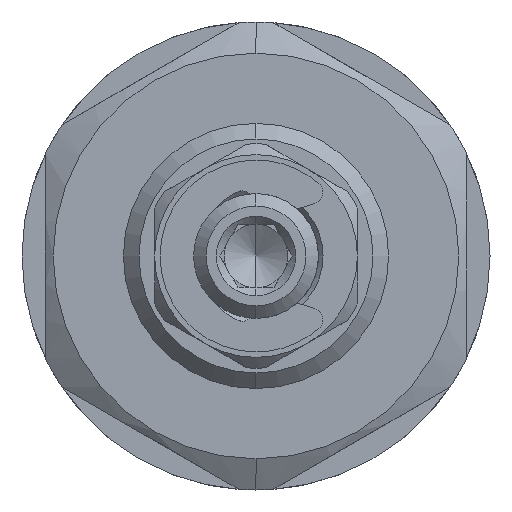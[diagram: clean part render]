
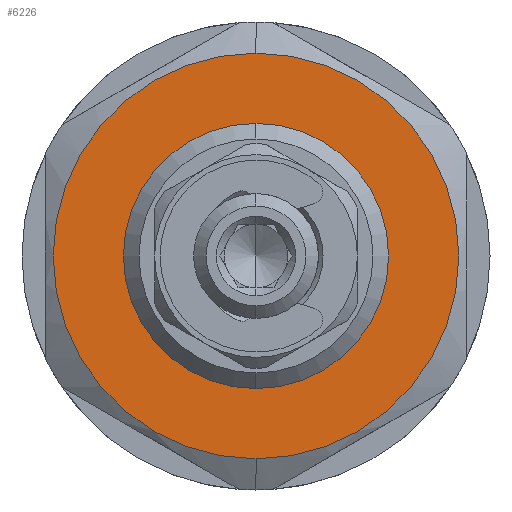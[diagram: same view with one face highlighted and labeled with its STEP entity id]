
A CAD part, left-side view. The second image highlights one B-rep face of the part: STEP entity #6226.
In plain terms, the highlighted planar face has unit normal (-1, 0, 0).
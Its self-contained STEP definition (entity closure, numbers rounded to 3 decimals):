
#327 = CIRCLE ( 'NONE', #3007, 8.5 ) ;
#601 = CARTESIAN_POINT ( 'NONE',  ( 13., 0., 13. ) ) ;
#668 = EDGE_CURVE ( 'NONE', #9710, #1951, #8001, .T. ) ;
#985 = CARTESIAN_POINT ( 'NONE',  ( 13., 0., 0. ) ) ;
#1564 = FACE_OUTER_BOUND ( 'NONE', #2878, .T. ) ;
#1779 = CIRCLE ( 'NONE', #5053, 13. ) ;
#1911 = DIRECTION ( 'NONE',  ( 0., 0., 1. ) ) ;
#1951 = VERTEX_POINT ( 'NONE', #601 ) ;
#2146 = CARTESIAN_POINT ( 'NONE',  ( 13., 0., -8.5 ) ) ;
#2287 = CARTESIAN_POINT ( 'NONE',  ( 13., 0., -13. ) ) ;
#2825 = ORIENTED_EDGE ( 'NONE', *, *, #9030, .F. ) ;
#2878 = EDGE_LOOP ( 'NONE', ( #7214, #8727 ) ) ;
#3007 = AXIS2_PLACEMENT_3D ( 'NONE', #3680, #3344, #5652 ) ;
#3284 = AXIS2_PLACEMENT_3D ( 'NONE', #985, #7507, #1911 ) ;
#3328 = EDGE_LOOP ( 'NONE', ( #2825, #4409 ) ) ;
#3344 = DIRECTION ( 'NONE',  ( -1., 0., 0. ) ) ;
#3680 = CARTESIAN_POINT ( 'NONE',  ( 13., 0., 0. ) ) ;
#3982 = CARTESIAN_POINT ( 'NONE',  ( 13., 0., 0. ) ) ;
#4129 = EDGE_CURVE ( 'NONE', #1951, #9710, #1779, .T. ) ;
#4211 = DIRECTION ( 'NONE',  ( -1., 0., 0. ) ) ;
#4409 = ORIENTED_EDGE ( 'NONE', *, *, #5169, .F. ) ;
#4804 = VERTEX_POINT ( 'NONE', #2146 ) ;
#4833 = CARTESIAN_POINT ( 'NONE',  ( 13., 0., 0. ) ) ;
#4894 = DIRECTION ( 'NONE',  ( -1., 0., 0. ) ) ;
#4968 = DIRECTION ( 'NONE',  ( 0., 0., 1. ) ) ;
#5053 = AXIS2_PLACEMENT_3D ( 'NONE', #3982, #4211, #11664 ) ;
#5169 = EDGE_CURVE ( 'NONE', #4804, #9336, #327, .T. ) ;
#5652 = DIRECTION ( 'NONE',  ( 0., 0., 1. ) ) ;
#6219 = DIRECTION ( 'NONE',  ( 0., 0., 1. ) ) ;
#6226 = ADVANCED_FACE ( 'NONE', ( #1564, #11758 ), #6825, .T. ) ;
#6391 = DIRECTION ( 'NONE',  ( -1., 0., 0. ) ) ;
#6398 = CARTESIAN_POINT ( 'NONE',  ( 13., 8.5, 0. ) ) ;
#6825 = PLANE ( 'NONE',  #9961 ) ;
#7214 = ORIENTED_EDGE ( 'NONE', *, *, #668, .T. ) ;
#7507 = DIRECTION ( 'NONE',  ( -1., 0., 0. ) ) ;
#8001 = CIRCLE ( 'NONE', #10026, 13. ) ;
#8727 = ORIENTED_EDGE ( 'NONE', *, *, #4129, .T. ) ;
#9030 = EDGE_CURVE ( 'NONE', #9336, #4804, #9156, .T. ) ;
#9156 = CIRCLE ( 'NONE', #3284, 8.5 ) ;
#9336 = VERTEX_POINT ( 'NONE', #11062 ) ;
#9710 = VERTEX_POINT ( 'NONE', #2287 ) ;
#9961 = AXIS2_PLACEMENT_3D ( 'NONE', #6398, #6391, #6219 ) ;
#10026 = AXIS2_PLACEMENT_3D ( 'NONE', #4833, #4894, #4968 ) ;
#11062 = CARTESIAN_POINT ( 'NONE',  ( 13., 0., 8.5 ) ) ;
#11664 = DIRECTION ( 'NONE',  ( 0., 0., 1. ) ) ;
#11758 = FACE_BOUND ( 'NONE', #3328, .T. ) ;
